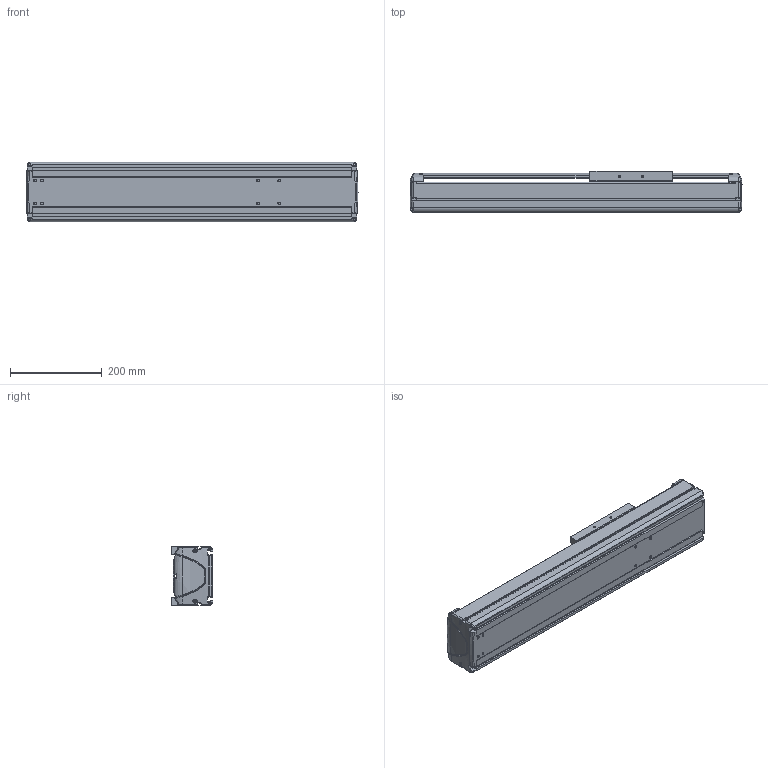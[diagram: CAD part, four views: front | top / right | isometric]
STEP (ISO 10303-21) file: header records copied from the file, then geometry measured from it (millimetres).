
FILE_DESCRIPTION((''),'2;1');
FILE_NAME('BE30E-ST-L_B-35_IGS_PRT','2017-06-17T',(' '),(''),'PRO/ENGINEER BY PARAMETRIC TECHNOLOGY CORPORATION, 2015030','PRO/ENGINEER BY PARAMETRIC TECHNOLOGY CORPORATION, 2015030','');
FILE_SCHEMA(('CONFIG_CONTROL_DESIGN'));
Length unit declared in the file: millimetre
Products named in the file (1): BE30E-ST-L_B-35_IGS_PRT
Bounding box: 725 x 89.8 x 130 mm (x, y, z)
Volume: 2552324.2 mm3; surface area: 920084.7 mm2
Topology: 2 solids, 72 shells, 1319 faces, 3535 edges, 2303 vertices
Faces by surface type: plane 604, cylinder 559, bspline 56, torus 46, cone 30, sphere 24
Entity records: 44193 total; most frequent: CARTESIAN_POINT 11121, DIRECTION 6810, ORIENTED_EDGE 6751, EDGE_CURVE 3515, AXIS2_PLACEMENT_3D 2435, VERTEX_POINT 2303, VECTOR 1940, LINE 1940
